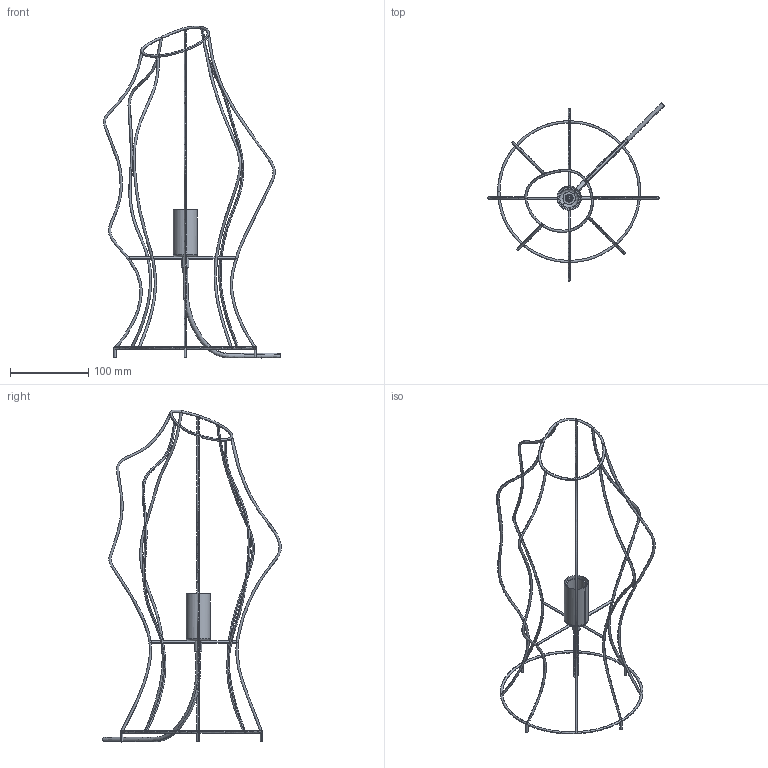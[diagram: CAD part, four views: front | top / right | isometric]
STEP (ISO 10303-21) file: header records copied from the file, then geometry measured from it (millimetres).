
FILE_DESCRIPTION(/* description */ (''),/* implementation_level */ '2;1');
FILE_NAME(/* name */ 'Dae table lamp_3D',/* time_stamp */ '2024-09-04T10:49:21+02:00',/* author */ (''),/* organization */ (''),/* preprocessor_version */ 'ST-DEVELOPER v16.5',/* originating_system */ 'Rhino 7.37',/* authorisation */ '');
FILE_SCHEMA (('CONFIG_CONTROL_DESIGN'));
Length unit declared in the file: millimetre
Products named in the file (1): Document
Bounding box: 226.62 x 228.34 x 424.43 mm (x, y, z)
Volume: 50213 mm3; surface area: 71180.5 mm2
Topology: 20 solids, 20 shells, 104 faces, 191 edges, 117 vertices
Faces by surface type: bspline 42, plane 34, cylinder 28
Entity records: 10836 total; most frequent: CARTESIAN_POINT 9510, ORIENTED_EDGE 366, EDGE_CURVE 183, VERTEX_POINT 117, EDGE_LOOP 112, ADVANCED_FACE 104, FACE_OUTER_BOUND 104, DIRECTION 66
